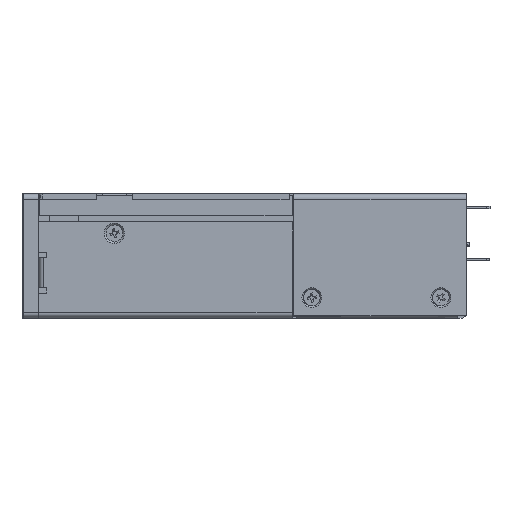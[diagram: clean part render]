
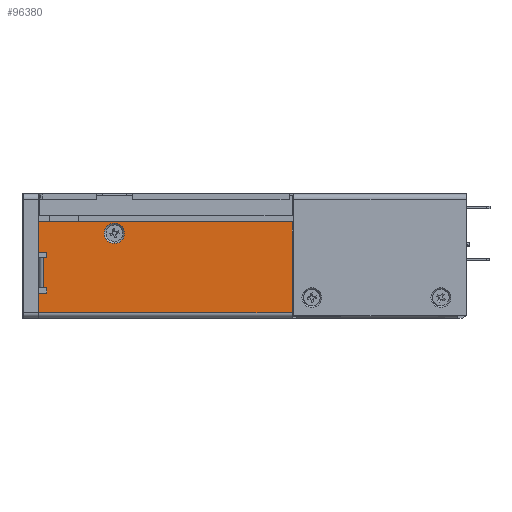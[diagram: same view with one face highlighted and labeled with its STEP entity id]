
A CAD part, front view. The second image highlights one B-rep face of the part: STEP entity #96380.
In plain terms, the highlighted planar face has unit normal (0, -1, 0).
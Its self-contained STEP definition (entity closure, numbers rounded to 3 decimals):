
#1986 = LINE ( 'NONE', #98657, #84433 ) ;
#2102 = EDGE_CURVE ( 'NONE', #53417, #55712, #71144, .T. ) ;
#4199 = VERTEX_POINT ( 'NONE', #57487 ) ;
#4561 = CIRCLE ( 'NONE', #63364, 3.35 ) ;
#4617 = ORIENTED_EDGE ( 'NONE', *, *, #112156, .T. ) ;
#4756 = CARTESIAN_POINT ( 'NONE',  ( 192.462, 101.861, 83. ) ) ;
#4777 = ORIENTED_EDGE ( 'NONE', *, *, #51853, .T. ) ;
#4948 = DIRECTION ( 'NONE',  ( 0., 0., 1. ) ) ;
#5467 = VECTOR ( 'NONE', #79245, 1000. ) ;
#7332 = LINE ( 'NONE', #95389, #5467 ) ;
#7461 = CARTESIAN_POINT ( 'NONE',  ( 186.712, 101.861, 72.25 ) ) ;
#13675 = VECTOR ( 'NONE', #82096, 1000. ) ;
#15931 = CARTESIAN_POINT ( 'NONE',  ( 111.562, 101.861, 72.25 ) ) ;
#17326 = VERTEX_POINT ( 'NONE', #52698 ) ;
#18882 = AXIS2_PLACEMENT_3D ( 'NONE', #65982, #73467, #110343 ) ;
#19088 = VERTEX_POINT ( 'NONE', #21790 ) ;
#19326 = EDGE_CURVE ( 'NONE', #17326, #4199, #73425, .T. ) ;
#19795 = CARTESIAN_POINT ( 'NONE',  ( 111.562, 101.861, 73. ) ) ;
#20996 = CARTESIAN_POINT ( 'NONE',  ( 108.812, 101.861, 59.5 ) ) ;
#21584 = VECTOR ( 'NONE', #90868, 1000. ) ;
#21790 = CARTESIAN_POINT ( 'NONE',  ( 133.812, 101.861, 82.6 ) ) ;
#22738 = EDGE_CURVE ( 'NONE', #88000, #77344, #36642, .T. ) ;
#23315 = EDGE_LOOP ( 'NONE', ( #4617, #65766, #59659, #70542, #61699, #33329, #80057, #88676, #98593, #69055, #47645, #80577 ) ) ;
#23382 = ORIENTED_EDGE ( 'NONE', *, *, #62785, .T. ) ;
#26889 = VECTOR ( 'NONE', #98245, 1000. ) ;
#28863 = CARTESIAN_POINT ( 'NONE',  ( 111.562, 101.861, 71.25 ) ) ;
#29044 = VECTOR ( 'NONE', #66596, 1000. ) ;
#32747 = VECTOR ( 'NONE', #4948, 1000. ) ;
#33329 = ORIENTED_EDGE ( 'NONE', *, *, #56316, .T. ) ;
#34108 = VERTEX_POINT ( 'NONE', #72151 ) ;
#35890 = DIRECTION ( 'NONE',  ( 1., 0., 0. ) ) ;
#36501 = EDGE_CURVE ( 'NONE', #107215, #17326, #7332, .T. ) ;
#36642 = LINE ( 'NONE', #53904, #79645 ) ;
#37244 = CARTESIAN_POINT ( 'NONE',  ( 108.812, 101.861, 83. ) ) ;
#39987 = AXIS2_PLACEMENT_3D ( 'NONE', #7461, #68445, #113366 ) ;
#43593 = LINE ( 'NONE', #61994, #26889 ) ;
#44109 = VECTOR ( 'NONE', #77276, 1000. ) ;
#46262 = DIRECTION ( 'NONE',  ( -1., 0., 0. ) ) ;
#47114 = VERTEX_POINT ( 'NONE', #49007 ) ;
#47645 = ORIENTED_EDGE ( 'NONE', *, *, #22738, .T. ) ;
#49007 = CARTESIAN_POINT ( 'NONE',  ( 133.812, 101.861, 75.9 ) ) ;
#51194 = FACE_BOUND ( 'NONE', #59173, .T. ) ;
#51643 = CARTESIAN_POINT ( 'NONE',  ( 192.462, 101.861, 53. ) ) ;
#51853 = EDGE_CURVE ( 'NONE', #19088, #47114, #4561, .T. ) ;
#52698 = CARTESIAN_POINT ( 'NONE',  ( 110.562, 101.861, 71.25 ) ) ;
#53382 = VECTOR ( 'NONE', #35890, 1000. ) ;
#53417 = VERTEX_POINT ( 'NONE', #51643 ) ;
#53904 = CARTESIAN_POINT ( 'NONE',  ( 108.812, 101.861, 72.25 ) ) ;
#55011 = CARTESIAN_POINT ( 'NONE',  ( 108.812, 101.861, 73. ) ) ;
#55712 = VERTEX_POINT ( 'NONE', #61173 ) ;
#56316 = EDGE_CURVE ( 'NONE', #34108, #59008, #71891, .T. ) ;
#57080 = CARTESIAN_POINT ( 'NONE',  ( 133.812, 101.861, 79.25 ) ) ;
#57487 = CARTESIAN_POINT ( 'NONE',  ( 110.562, 101.861, 61.25 ) ) ;
#59008 = VERTEX_POINT ( 'NONE', #20996 ) ;
#59173 = EDGE_LOOP ( 'NONE', ( #23382, #4777 ) ) ;
#59659 = ORIENTED_EDGE ( 'NONE', *, *, #19326, .T. ) ;
#59937 = EDGE_CURVE ( 'NONE', #97344, #34108, #85571, .T. ) ;
#61148 = LINE ( 'NONE', #68623, #44109 ) ;
#61173 = CARTESIAN_POINT ( 'NONE',  ( 108.812, 101.861, 53. ) ) ;
#61699 = ORIENTED_EDGE ( 'NONE', *, *, #59937, .T. ) ;
#61994 = CARTESIAN_POINT ( 'NONE',  ( 110.136, 101.861, 61.25 ) ) ;
#62785 = EDGE_CURVE ( 'NONE', #47114, #19088, #68510, .T. ) ;
#63111 = DIRECTION ( 'NONE',  ( 0., 0., -1. ) ) ;
#63364 = AXIS2_PLACEMENT_3D ( 'NONE', #57080, #84103, #92192 ) ;
#64769 = LINE ( 'NONE', #75113, #32747 ) ;
#64839 = EDGE_CURVE ( 'NONE', #91247, #88000, #1986, .T. ) ;
#65766 = ORIENTED_EDGE ( 'NONE', *, *, #36501, .T. ) ;
#65982 = CARTESIAN_POINT ( 'NONE',  ( 133.812, 101.861, 79.25 ) ) ;
#66596 = DIRECTION ( 'NONE',  ( 0., 0., -1. ) ) ;
#68445 = DIRECTION ( 'NONE',  ( 0., -1., 0. ) ) ;
#68510 = CIRCLE ( 'NONE', #18882, 3.35 ) ;
#68623 = CARTESIAN_POINT ( 'NONE',  ( 192.462, 101.861, 51.25 ) ) ;
#69055 = ORIENTED_EDGE ( 'NONE', *, *, #64839, .T. ) ;
#70542 = ORIENTED_EDGE ( 'NONE', *, *, #86670, .F. ) ;
#71144 = LINE ( 'NONE', #95970, #98659 ) ;
#71891 = LINE ( 'NONE', #98405, #21584 ) ;
#72151 = CARTESIAN_POINT ( 'NONE',  ( 111.562, 101.861, 59.5 ) ) ;
#73425 = LINE ( 'NONE', #89621, #94020 ) ;
#73467 = DIRECTION ( 'NONE',  ( 0., 1., 0. ) ) ;
#75113 = CARTESIAN_POINT ( 'NONE',  ( 108.812, 101.861, 51.25 ) ) ;
#77276 = DIRECTION ( 'NONE',  ( 0., 0., -1. ) ) ;
#77344 = VERTEX_POINT ( 'NONE', #55011 ) ;
#79245 = DIRECTION ( 'NONE',  ( -1., 0., 0. ) ) ;
#79645 = VECTOR ( 'NONE', #63111, 1000. ) ;
#80057 = ORIENTED_EDGE ( 'NONE', *, *, #94743, .F. ) ;
#80577 = ORIENTED_EDGE ( 'NONE', *, *, #102181, .T. ) ;
#82096 = DIRECTION ( 'NONE',  ( 0., 0., -1. ) ) ;
#84103 = DIRECTION ( 'NONE',  ( 0., 1., 0. ) ) ;
#84433 = VECTOR ( 'NONE', #46262, 1000. ) ;
#85571 = LINE ( 'NONE', #15931, #29044 ) ;
#86670 = EDGE_CURVE ( 'NONE', #97344, #4199, #43593, .T. ) ;
#88000 = VERTEX_POINT ( 'NONE', #37244 ) ;
#88676 = ORIENTED_EDGE ( 'NONE', *, *, #2102, .F. ) ;
#89399 = LINE ( 'NONE', #106696, #53382 ) ;
#89621 = CARTESIAN_POINT ( 'NONE',  ( 110.562, 101.861, 72.25 ) ) ;
#90868 = DIRECTION ( 'NONE',  ( -1., 0., 0. ) ) ;
#91247 = VERTEX_POINT ( 'NONE', #4756 ) ;
#92192 = DIRECTION ( 'NONE',  ( 0., 0., -1. ) ) ;
#94020 = VECTOR ( 'NONE', #100530, 1000. ) ;
#94743 = EDGE_CURVE ( 'NONE', #55712, #59008, #64769, .T. ) ;
#95285 = CARTESIAN_POINT ( 'NONE',  ( 111.562, 101.861, 61.25 ) ) ;
#95389 = CARTESIAN_POINT ( 'NONE',  ( 114.812, 101.861, 71.25 ) ) ;
#95522 = PLANE ( 'NONE',  #39987 ) ;
#95970 = CARTESIAN_POINT ( 'NONE',  ( 172.187, 101.861, 53. ) ) ;
#96380 = ADVANCED_FACE ( 'NONE', ( #100192, #51194 ), #95522, .T. ) ;
#97344 = VERTEX_POINT ( 'NONE', #95285 ) ;
#98245 = DIRECTION ( 'NONE',  ( -1., 0., 0. ) ) ;
#98405 = CARTESIAN_POINT ( 'NONE',  ( 186.712, 101.861, 59.5 ) ) ;
#98593 = ORIENTED_EDGE ( 'NONE', *, *, #100390, .F. ) ;
#98657 = CARTESIAN_POINT ( 'NONE',  ( 186.712, 101.861, 83. ) ) ;
#98659 = VECTOR ( 'NONE', #106314, 1000. ) ;
#99980 = CARTESIAN_POINT ( 'NONE',  ( 111.562, 101.861, 72.25 ) ) ;
#100192 = FACE_OUTER_BOUND ( 'NONE', #23315, .T. ) ;
#100390 = EDGE_CURVE ( 'NONE', #91247, #53417, #61148, .T. ) ;
#100530 = DIRECTION ( 'NONE',  ( 0., 0., -1. ) ) ;
#102181 = EDGE_CURVE ( 'NONE', #77344, #113037, #89399, .T. ) ;
#106314 = DIRECTION ( 'NONE',  ( -1., 0., 0. ) ) ;
#106696 = CARTESIAN_POINT ( 'NONE',  ( 186.712, 101.861, 73. ) ) ;
#107215 = VERTEX_POINT ( 'NONE', #28863 ) ;
#109177 = LINE ( 'NONE', #99980, #13675 ) ;
#110343 = DIRECTION ( 'NONE',  ( 0., 0., -1. ) ) ;
#112156 = EDGE_CURVE ( 'NONE', #113037, #107215, #109177, .T. ) ;
#113037 = VERTEX_POINT ( 'NONE', #19795 ) ;
#113366 = DIRECTION ( 'NONE',  ( 0., 0., -1. ) ) ;
